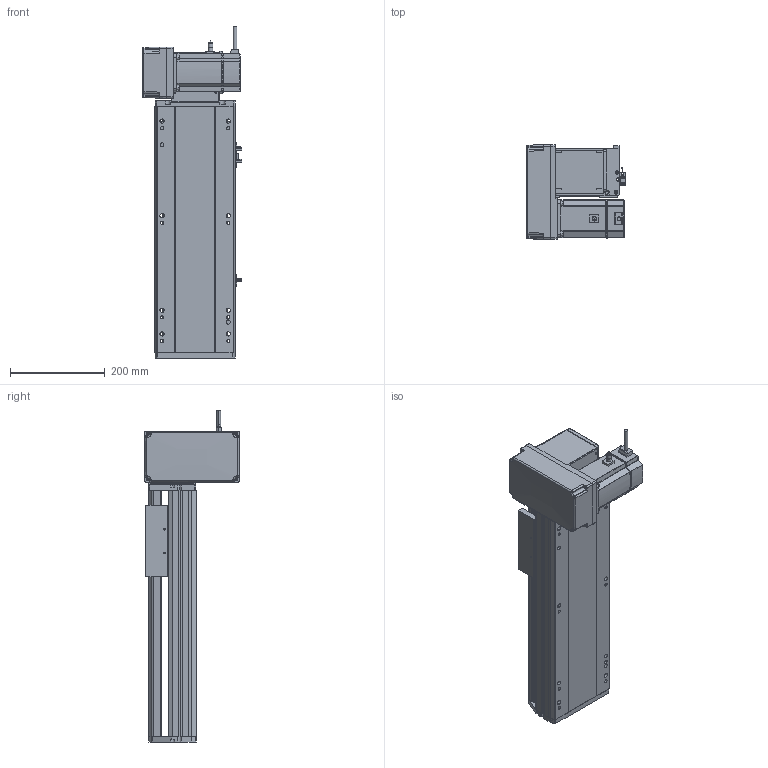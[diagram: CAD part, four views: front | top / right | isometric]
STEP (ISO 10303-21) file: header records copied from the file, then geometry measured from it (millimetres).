
FILE_DESCRIPTION (( 'STEP AP214' ), '1' );
FILE_NAME ('RTB17S-XX-250-LM-M75-C4.STEP', '2025-12-12T00:33:56', ( '' ), ( '' ), 'SwSTEP 2.0', 'SolidWorks 2018', '' );
FILE_SCHEMA (( 'AUTOMOTIVE_DESIGN' ));
Length unit declared in the file: millimetre
Products named in the file (15): RTH13-BL-012覜茼え俋离^RTB17S-賑釱_RTB17S-XX-XX-LM-M75-C4; RTB22S-GY-008-M75--萇儂啣^RTB17S-LM-々湍釱蚾饜-750W_RTB17S-XX-XX-LM-M75-C4; RTB17S-XX-250-LM-M75-C4; RTB17S-L-001-耜醱啣^RTB17S-XX-XX-LM-M75-C4; RTB22S-GY-017P^RTB17S-LM-々湍釱蚾饜-750W_RTB17S-XX-XX-LM-M75-C4; RTB22S-GY-005P^RTB17S-LM-々湍釱蚾饜-750W_RTB17S-XX-XX-LM-M75-C4; RTB17S-L-004-賑釱^RTB17S-賑釱_RTB17S-XX-XX-LM-M75-C4; RTB17S-LM-々湍釱蚾饜-750W^RTB17S-XX-XX-LM-M75-C4; RTB17-R-011菁釱^RTB17S-XX-XX-LM-M75-C4; RTB17S-L-014-T20-P75--々湍釱^RTB17S-LM-々湍釱蚾饜-750W_RTB17S-XX-XX-LM-M75-C4; RTB17S-L-007奻裔^RTB17S-XX-XX-LM-M75-C4; RTB22S-GY-018P^RTB17S-LM-々湍釱蚾饜-750W_RTB17S-XX-XX-LM-M75-C4; 750W萇儂^RTB17S-XX-XX-LM-M75-C4; RTB17S-賑釱^RTB17S-XX-XX-LM-M75-C4; EE672^RTB17S-XX-XX-LM-M75-C4
Assembly tree (17 placements, depth 3):
  RTB17S-XX-250-LM-M75-C4
    RTB17-R-011菁釱^RTB17S-XX-XX-LM-M75-C4
    EE672^RTB17S-XX-XX-LM-M75-C4  x3
    RTB17S-L-001-耜醱啣^RTB17S-XX-XX-LM-M75-C4
    RTB17S-賑釱^RTB17S-XX-XX-LM-M75-C4
      RTB17S-L-004-賑釱^RTB17S-賑釱_RTB17S-XX-XX-LM-M75-C4
      RTH13-BL-012覜茼え俋离^RTB17S-賑釱_RTB17S-XX-XX-LM-M75-C4
    RTB17S-L-007奻裔^RTB17S-XX-XX-LM-M75-C4
    750W萇儂^RTB17S-XX-XX-LM-M75-C4
    RTB17S-LM-々湍釱蚾饜-750W^RTB17S-XX-XX-LM-M75-C4
      RTB17S-L-014-T20-P75--々湍釱^RTB17S-LM-々湍釱蚾饜-750W_RTB17S-XX-XX-LM-M75-C4
      RTB22S-GY-005P^RTB17S-LM-々湍釱蚾饜-750W_RTB17S-XX-XX-LM-M75-C4
      RTB22S-GY-017P^RTB17S-LM-々湍釱蚾饜-750W_RTB17S-XX-XX-LM-M75-C4  x2
      RTB22S-GY-008-M75--萇儂啣^RTB17S-LM-々湍釱蚾饜-750W_RTB17S-XX-XX-LM-M75-C4
      RTB22S-GY-018P^RTB17S-LM-々湍釱蚾饜-750W_RTB17S-XX-XX-LM-M75-C4
Bounding box: 210.4 x 200 x 702.2 mm (x, y, z)
Volume: 7507527.7 mm3; surface area: 1151470.8 mm2
Topology: 17 solids, 17 shells, 2041 faces, 5620 edges, 3626 vertices
Faces by surface type: plane 964, cylinder 661, bspline 294, cone 110, sphere 8, torus 4
Entity records: 55798 total; most frequent: CARTESIAN_POINT 16284, ORIENTED_EDGE 8084, DIRECTION 7592, EDGE_CURVE 4042, AXIS2_PLACEMENT_3D 2646, VERTEX_POINT 2630, VECTOR 2300, LINE 2300
